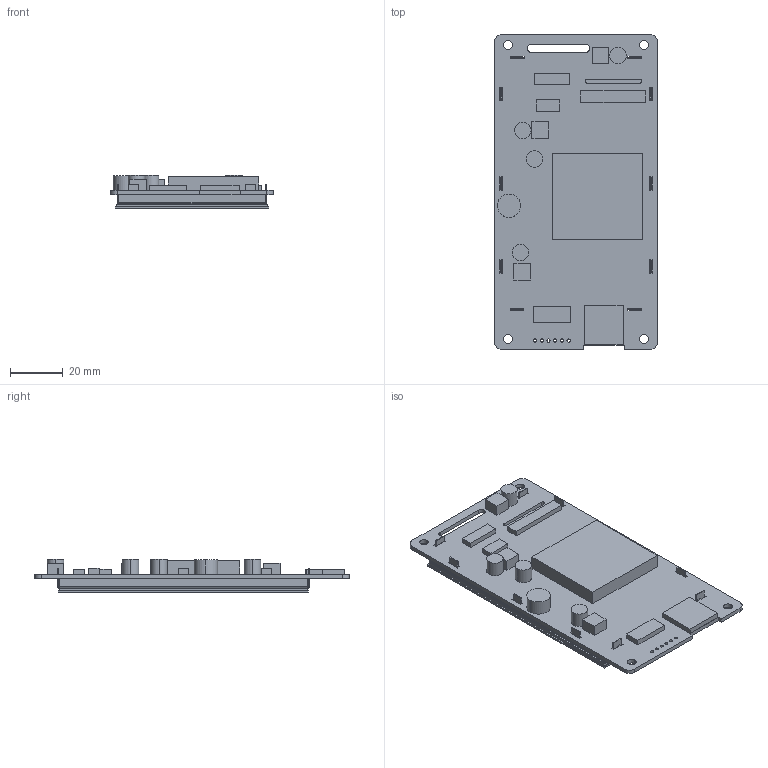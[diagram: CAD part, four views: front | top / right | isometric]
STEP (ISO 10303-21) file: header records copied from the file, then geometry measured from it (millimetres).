
FILE_DESCRIPTION (( 'STEP AP214' ), '1' );
FILE_NAME ('DMG80480C040_03WTC 3D.STEP', '2023-08-14T08:58:16', ( '' ), ( 'Microsoft' ), 'SwSTEP 2.0', 'SolidWorks 2017', '' );
FILE_SCHEMA (( 'AUTOMOTIVE_DESIGN' ));
Length unit declared in the file: millimetre
Products named in the file (5): TK040001; DMG80480c040-03wtc; DMG80480C040_03WTC 3D; TPC040Z0032G01V1-馱最芞; FC397HIL340-05(LI48800T040HA5004)
Assembly tree (4 placements, depth 2):
  DMG80480C040_03WTC 3D
    DMG80480c040-03wtc
    TK040001
    FC397HIL340-05(LI48800T040HA5004)
    TPC040Z0032G01V1-馱最芞
Bounding box: 61.85 x 119.51 x 12.78 mm (x, y, z)
Volume: 39796.1 mm3; surface area: 44431.1 mm2
Topology: 4 solids, 4 shells, 299 faces, 784 edges, 512 vertices
Faces by surface type: plane 243, cylinder 48, bspline 8
Entity records: 12337 total; most frequent: CARTESIAN_POINT 1946, ORIENTED_EDGE 1568, DIRECTION 1444, EDGE_CURVE 784, LINE 688, VECTOR 688, VERTEX_POINT 512, AXIS2_PLACEMENT_3D 378
